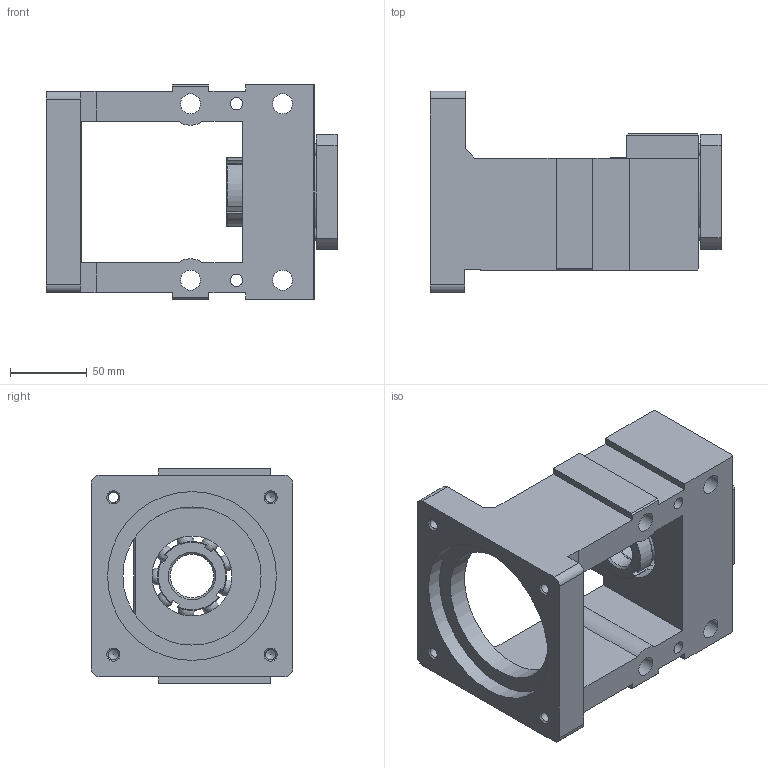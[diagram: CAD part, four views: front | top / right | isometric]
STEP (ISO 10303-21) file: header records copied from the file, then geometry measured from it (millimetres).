
FILE_DESCRIPTION(('STEP AP214'), '1');
FILE_NAME('HM30-130C5 - Êðîíøòåéí HM30', '', ('UNSPECIFIED'), ('UNSPECIFIED'), 'ASCON STEP Converter 1.6', 'ASCON Math Kernel', '');
FILE_SCHEMA(('AUTOMOTIVE_DESIGN { 1 0 10303 214 3 1 1}'));
Length unit declared in the file: millimetre
Products named in the file (1): HM30-130C5
Bounding box: 190 x 131 x 140 mm (x, y, z)
Volume: 992523.6 mm3; surface area: 203505.3 mm2
Topology: 31 solids, 31 shells, 313 faces, 769 edges, 495 vertices
Faces by surface type: plane 150, cylinder 74, cone 47, torus 24, sphere 18
Full cylindrical faces by diameter (mm): 6 x4, 6.647 x8, 8 x6, 9 x4, 13 x8, 14 x4, 20 x4, 28.376 x1, 30 x4, 37 x2, 39.36 x4, 40 x1, 52 x2, 52.64 x2, 62 x4, 90 x1, 110 x1
Entity records: 11621 total; most frequent: CARTESIAN_POINT 2119, DIRECTION 1447, ORIENTED_EDGE 1162, AXIS2_PLACEMENT_3D 592, EDGE_CURVE 581, EDGE_LOOP 475, VERTEX_POINT 448, COLOUR_RGB 344
